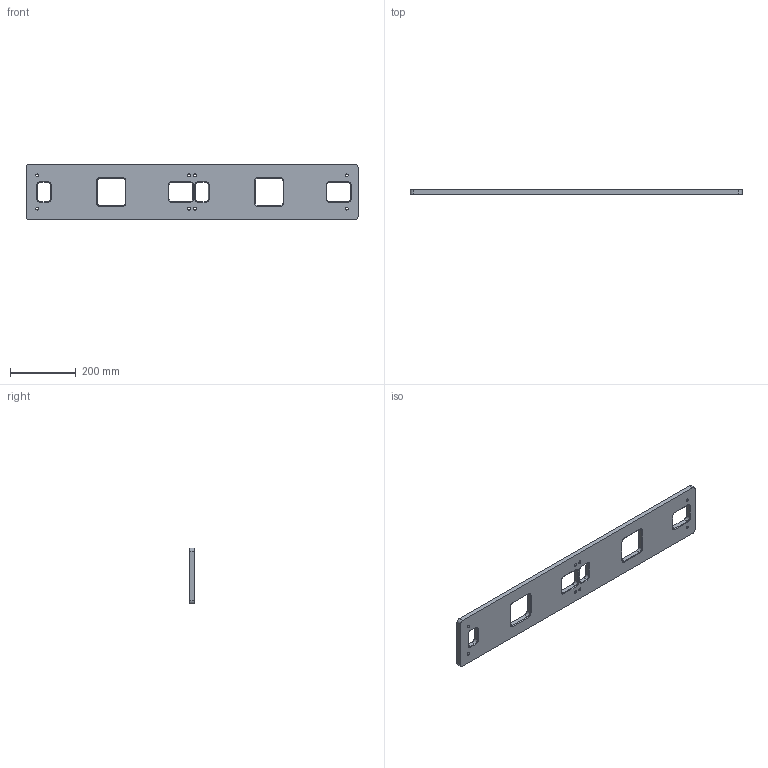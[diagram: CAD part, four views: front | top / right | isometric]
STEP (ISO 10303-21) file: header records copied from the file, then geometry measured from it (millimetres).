
FILE_DESCRIPTION (( 'STEP AP214' ), '1' );
FILE_NAME ('S3-AN-04.06-Rev1, Flyway Mounting Plate Example 2X1, Blind Hole Option.STEP', '2025-08-25T21:49:28', ( '' ), ( '' ), 'SwSTEP 2.0', 'SolidWorks 2022', '' );
FILE_SCHEMA (( 'AUTOMOTIVE_DESIGN' ));
Length unit declared in the file: millimetre
Products named in the file (1): S3-AN-04.06-Rev1, Flyway Mounting Plate Example 2X1, Blind Hole Option
Bounding box: 1010 x 15 x 170 mm (x, y, z)
Volume: 2151036.1 mm3; surface area: 346990.6 mm2
Topology: 1 solids, 1 shells, 284 faces, 760 edges, 488 vertices
Faces by surface type: plane 200, cylinder 52, cone 32
Entity records: 8877 total; most frequent: CARTESIAN_POINT 1533, ORIENTED_EDGE 1520, DIRECTION 1466, EDGE_CURVE 760, LINE 624, VECTOR 624, VERTEX_POINT 488, AXIS2_PLACEMENT_3D 421
